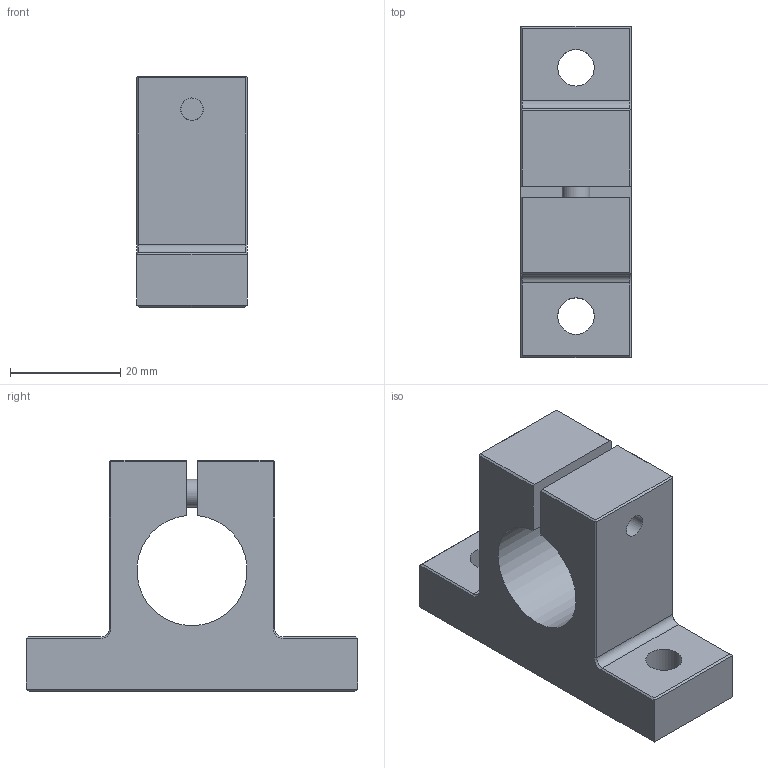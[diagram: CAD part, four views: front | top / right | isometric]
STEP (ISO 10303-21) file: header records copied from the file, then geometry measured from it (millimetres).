
FILE_DESCRIPTION((''),'2;1');
FILE_NAME('D:\製品 (図面)\カタログ用3D\シャフトブロック関連\STEP形式\SHA\SHA20.stp','2010-06-01T16:37:34',('Tsuchiya'),(''),'Autodesk Inventor 10','Autodesk Inventor 10','');
FILE_SCHEMA(('AUTOMOTIVE_DESIGN { 1 0 10303 214 1 1 1 1 }'));
Length unit declared in the file: millimetre
Products named in the file (1): SHA20
Bounding box: 20 x 60 x 42 mm (x, y, z)
Volume: 23624 mm3; surface area: 8931.4 mm2
Topology: 1 solids, 1 shells, 60 faces, 147 edges, 93 vertices
Faces by surface type: plane 42, cylinder 7, cone 6, bspline 4, torus 1
Full cylindrical faces by diameter (mm): 5 x1, 6.6 x2, 8.5 x1
Entity records: 1710 total; most frequent: CARTESIAN_POINT 347, DIRECTION 266, ORIENTED_EDGE 264, EDGE_CURVE 132, VECTOR 100, LINE 100, VERTEX_POINT 88, AXIS2_PLACEMENT_3D 83
